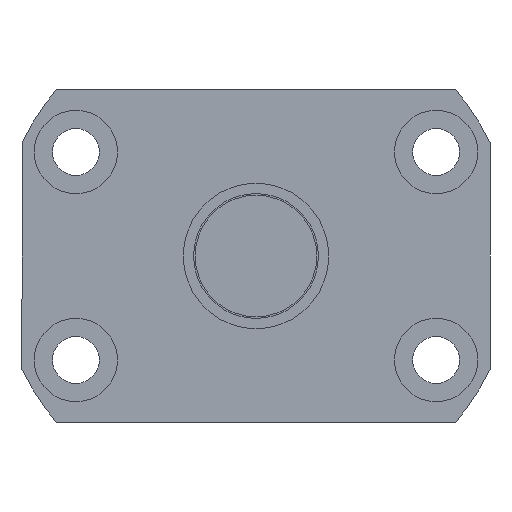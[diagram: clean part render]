
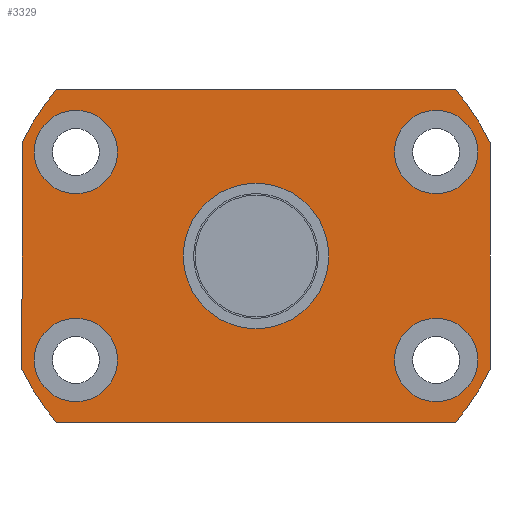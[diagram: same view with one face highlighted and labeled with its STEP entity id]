
A CAD part, left-side view. The second image highlights one B-rep face of the part: STEP entity #3329.
In plain terms, the highlighted planar face has unit normal (-1, 0, 0).
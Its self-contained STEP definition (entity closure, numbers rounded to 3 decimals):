
#479=CARTESIAN_POINT('',(226.324,21.321,-10.));
#480=VERTEX_POINT('',#479);
#481=CARTESIAN_POINT('',(226.324,17.321,-10.));
#482=DIRECTION('',(1.0,0.0,0.0));
#483=DIRECTION('',(0.0,1.0,0.0));
#484=AXIS2_PLACEMENT_3D('',#481,#482,#483);
#485=CIRCLE('',#484,4.0);
#486=EDGE_CURVE('',#480,#480,#485,.T.);
#547=CARTESIAN_POINT('',(226.324,-13.321,10.));
#548=VERTEX_POINT('',#547);
#549=CARTESIAN_POINT('',(226.324,-17.321,10.));
#550=DIRECTION('',(1.0,0.0,0.0));
#551=DIRECTION('',(0.0,1.0,0.0));
#552=AXIS2_PLACEMENT_3D('',#549,#550,#551);
#553=CIRCLE('',#552,4.0);
#554=EDGE_CURVE('',#548,#548,#553,.T.);
#615=CARTESIAN_POINT('',(226.324,21.321,10.));
#616=VERTEX_POINT('',#615);
#617=CARTESIAN_POINT('',(226.324,17.321,10.));
#618=DIRECTION('',(1.0,0.0,0.0));
#619=DIRECTION('',(0.0,1.0,0.0));
#620=AXIS2_PLACEMENT_3D('',#617,#618,#619);
#621=CIRCLE('',#620,4.0);
#622=EDGE_CURVE('',#616,#616,#621,.T.);
#683=CARTESIAN_POINT('',(226.324,-13.321,-10.));
#684=VERTEX_POINT('',#683);
#685=CARTESIAN_POINT('',(226.324,-17.321,-10.));
#686=DIRECTION('',(1.0,0.0,0.0));
#687=DIRECTION('',(0.0,1.0,0.0));
#688=AXIS2_PLACEMENT_3D('',#685,#686,#687);
#689=CIRCLE('',#688,4.0);
#690=EDGE_CURVE('',#684,#684,#689,.T.);
#3031=CARTESIAN_POINT('',(226.324,-19.209,16.));
#3032=VERTEX_POINT('',#3031);
#3039=CARTESIAN_POINT('',(226.324,-22.5,10.897));
#3040=VERTEX_POINT('',#3039);
#3041=CARTESIAN_POINT('',(226.324,0.,0.0));
#3042=DIRECTION('',(1.0,0.0,0.0));
#3043=DIRECTION('',(0.0,1.0,0.0));
#3044=AXIS2_PLACEMENT_3D('',#3041,#3042,#3043);
#3045=CIRCLE('',#3044,25.0);
#3046=EDGE_CURVE('',#3032,#3040,#3045,.T.);
#3063=CARTESIAN_POINT('',(226.324,19.209,16.));
#3064=VERTEX_POINT('',#3063);
#3071=CARTESIAN_POINT('',(226.324,19.209,16.));
#3072=DIRECTION('',(0.0,-1.0,0.0));
#3073=VECTOR('',#3072,38.419);
#3074=LINE('',#3071,#3073);
#3075=EDGE_CURVE('',#3064,#3032,#3074,.T.);
#3087=CARTESIAN_POINT('',(226.324,22.5,10.897));
#3088=VERTEX_POINT('',#3087);
#3095=CARTESIAN_POINT('',(226.324,0.,0.0));
#3096=DIRECTION('',(1.0,0.0,0.0));
#3097=DIRECTION('',(0.0,1.0,0.0));
#3098=AXIS2_PLACEMENT_3D('',#3095,#3096,#3097);
#3099=CIRCLE('',#3098,25.0);
#3100=EDGE_CURVE('',#3088,#3064,#3099,.T.);
#3112=CARTESIAN_POINT('',(226.324,22.5,-10.897));
#3113=VERTEX_POINT('',#3112);
#3120=CARTESIAN_POINT('',(226.324,22.5,-10.897));
#3121=DIRECTION('',(0.0,0.0,1.0));
#3122=VECTOR('',#3121,21.794);
#3123=LINE('',#3120,#3122);
#3124=EDGE_CURVE('',#3113,#3088,#3123,.T.);
#3136=CARTESIAN_POINT('',(226.324,19.209,-16.));
#3137=VERTEX_POINT('',#3136);
#3144=CARTESIAN_POINT('',(226.324,0.,0.0));
#3145=DIRECTION('',(1.0,0.0,0.0));
#3146=DIRECTION('',(0.0,1.0,0.0));
#3147=AXIS2_PLACEMENT_3D('',#3144,#3145,#3146);
#3148=CIRCLE('',#3147,25.0);
#3149=EDGE_CURVE('',#3137,#3113,#3148,.T.);
#3161=CARTESIAN_POINT('',(226.324,-19.209,-16.));
#3162=VERTEX_POINT('',#3161);
#3169=CARTESIAN_POINT('',(226.324,-19.209,-16.));
#3170=DIRECTION('',(0.0,1.0,0.0));
#3171=VECTOR('',#3170,38.419);
#3172=LINE('',#3169,#3171);
#3173=EDGE_CURVE('',#3162,#3137,#3172,.T.);
#3185=CARTESIAN_POINT('',(226.324,-22.5,-10.897));
#3186=VERTEX_POINT('',#3185);
#3193=CARTESIAN_POINT('',(226.324,0.,0.0));
#3194=DIRECTION('',(1.0,0.0,0.0));
#3195=DIRECTION('',(0.0,1.0,0.0));
#3196=AXIS2_PLACEMENT_3D('',#3193,#3194,#3195);
#3197=CIRCLE('',#3196,25.0);
#3198=EDGE_CURVE('',#3186,#3162,#3197,.T.);
#3211=CARTESIAN_POINT('',(226.324,-22.5,10.897));
#3212=DIRECTION('',(0.0,0.0,-1.0));
#3213=VECTOR('',#3212,21.794);
#3214=LINE('',#3211,#3213);
#3215=EDGE_CURVE('',#3040,#3186,#3214,.T.);
#3226=CARTESIAN_POINT('',(226.324,7.,0.0));
#3227=VERTEX_POINT('',#3226);
#3228=CARTESIAN_POINT('',(226.324,0.,0.0));
#3229=DIRECTION('',(1.0,0.0,0.0));
#3230=DIRECTION('',(0.0,1.0,0.0));
#3231=AXIS2_PLACEMENT_3D('',#3228,#3229,#3230);
#3232=CIRCLE('',#3231,7.);
#3233=EDGE_CURVE('',#3227,#3227,#3232,.T.);
#3299=CARTESIAN_POINT('',(226.324,11.,0.0));
#3300=DIRECTION('',(-1.0,0.0,0.0));
#3301=DIRECTION('',(0.0,0.0,1.0));
#3302=AXIS2_PLACEMENT_3D('',#3299,#3300,#3301);
#3303=PLANE('',#3302);
#3304=ORIENTED_EDGE('',*,*,#3124,.F.);
#3305=ORIENTED_EDGE('',*,*,#3149,.F.);
#3306=ORIENTED_EDGE('',*,*,#3173,.F.);
#3307=ORIENTED_EDGE('',*,*,#3198,.F.);
#3308=ORIENTED_EDGE('',*,*,#3215,.F.);
#3309=ORIENTED_EDGE('',*,*,#3046,.F.);
#3310=ORIENTED_EDGE('',*,*,#3075,.F.);
#3311=ORIENTED_EDGE('',*,*,#3100,.F.);
#3312=EDGE_LOOP('',(#3304,#3305,#3306,#3307,#3308,#3309,#3310,#3311));
#3313=FACE_OUTER_BOUND('',#3312,.T.);
#3314=ORIENTED_EDGE('',*,*,#486,.T.);
#3315=EDGE_LOOP('',(#3314));
#3316=FACE_BOUND('',#3315,.T.);
#3317=ORIENTED_EDGE('',*,*,#554,.T.);
#3318=EDGE_LOOP('',(#3317));
#3319=FACE_BOUND('',#3318,.T.);
#3320=ORIENTED_EDGE('',*,*,#622,.T.);
#3321=EDGE_LOOP('',(#3320));
#3322=FACE_BOUND('',#3321,.T.);
#3323=ORIENTED_EDGE('',*,*,#690,.T.);
#3324=EDGE_LOOP('',(#3323));
#3325=FACE_BOUND('',#3324,.T.);
#3326=ORIENTED_EDGE('',*,*,#3233,.T.);
#3327=EDGE_LOOP('',(#3326));
#3328=FACE_BOUND('',#3327,.T.);
#3329=ADVANCED_FACE('',(#3313,#3316,#3319,#3322,#3325,#3328),#3303,.T.);
